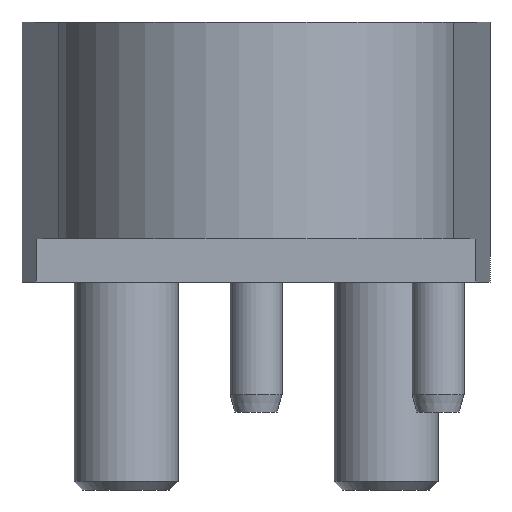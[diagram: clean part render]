
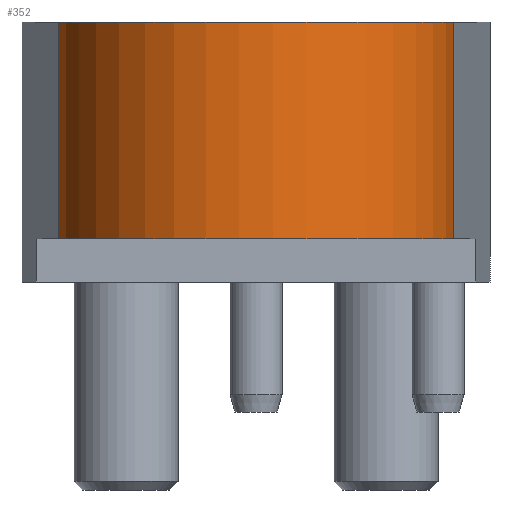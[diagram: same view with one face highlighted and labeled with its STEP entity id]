
A CAD part, left-side view. The second image highlights one B-rep face of the part: STEP entity #352.
In plain terms, the highlighted cylindrical face has radius 23 mm (diameter 46 mm), a partial arc.
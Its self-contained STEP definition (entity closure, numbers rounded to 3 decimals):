
#181=CYLINDRICAL_SURFACE('',#2246,23.);
#230=CIRCLE('',#2244,23.);
#231=CIRCLE('',#2245,23.);
#352=ADVANCED_FACE('',(#547),#181,.T.);
#547=FACE_OUTER_BOUND('',#665,.T.);
#665=EDGE_LOOP('',(#837,#838,#839,#840));
#837=ORIENTED_EDGE('',*,*,#1614,.F.);
#838=ORIENTED_EDGE('',*,*,#1615,.T.);
#839=ORIENTED_EDGE('',*,*,#1616,.F.);
#840=ORIENTED_EDGE('',*,*,#1617,.F.);
#1421=VERTEX_POINT('',#3207);
#1422=VERTEX_POINT('',#3208);
#1423=VERTEX_POINT('',#3210);
#1424=VERTEX_POINT('',#3212);
#1614=EDGE_CURVE('',#1421,#1422,#230,.T.);
#1615=EDGE_CURVE('',#1421,#1423,#1906,.T.);
#1616=EDGE_CURVE('',#1424,#1423,#231,.T.);
#1617=EDGE_CURVE('',#1422,#1424,#1907,.T.);
#1906=LINE('',#3209,#2076);
#1907=LINE('',#3213,#2077);
#2076=VECTOR('',#2524,1.);
#2077=VECTOR('',#2527,1.);
#2244=AXIS2_PLACEMENT_3D('',#3206,#2522,#2523);
#2245=AXIS2_PLACEMENT_3D('',#3211,#2525,#2526);
#2246=AXIS2_PLACEMENT_3D('',#3214,#2528,#2529);
#2522=DIRECTION('',(0.,0.,-1.));
#2523=DIRECTION('',(0.,1.,0.));
#2524=DIRECTION('',(0.,0.,1.));
#2525=DIRECTION('',(0.,0.,1.));
#2526=DIRECTION('',(0.,1.,0.));
#2527=DIRECTION('',(0.,0.,1.));
#2528=DIRECTION('',(0.,0.,1.));
#2529=DIRECTION('',(-1.,0.,0.));
#3206=CARTESIAN_POINT('',(0.,0.,5.));
#3207=CARTESIAN_POINT('',(-3.085,-22.792,5.));
#3208=CARTESIAN_POINT('',(-3.085,22.792,5.));
#3209=CARTESIAN_POINT('',(-3.085,-22.792,0.));
#3210=CARTESIAN_POINT('',(-3.085,-22.792,30.));
#3211=CARTESIAN_POINT('',(0.,0.,30.));
#3212=CARTESIAN_POINT('',(-3.085,22.792,30.));
#3213=CARTESIAN_POINT('',(-3.085,22.792,0.));
#3214=CARTESIAN_POINT('',(0.,0.,0.));
